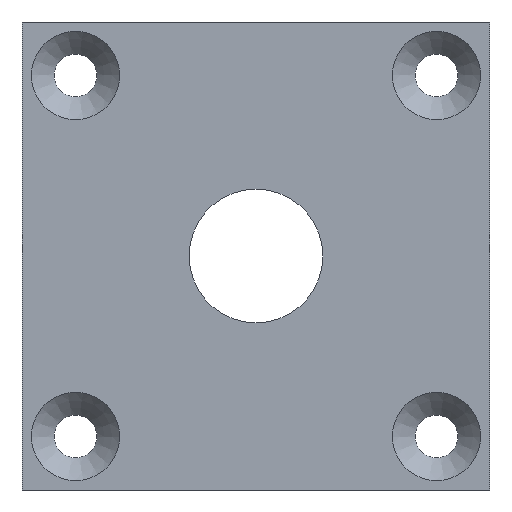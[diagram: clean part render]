
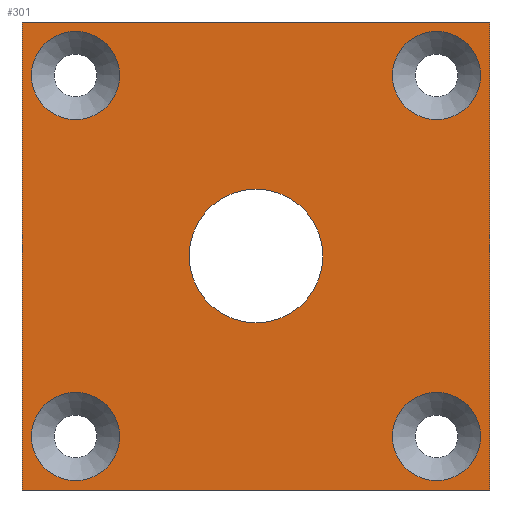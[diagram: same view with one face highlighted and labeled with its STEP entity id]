
A CAD part, front view. The second image highlights one B-rep face of the part: STEP entity #301.
In plain terms, the highlighted planar face has unit normal (0, -1, 0).
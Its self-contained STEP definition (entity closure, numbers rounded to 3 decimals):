
#31=FACE_BOUND('',#91,.T.);
#32=FACE_BOUND('',#92,.T.);
#33=FACE_BOUND('',#93,.T.);
#34=FACE_BOUND('',#94,.T.);
#35=FACE_BOUND('',#95,.T.);
#42=CIRCLE('',#329,5.);
#45=CIRCLE('',#336,3.3);
#47=CIRCLE('',#340,3.3);
#49=CIRCLE('',#344,3.3);
#51=CIRCLE('',#348,3.3);
#67=FACE_OUTER_BOUND('',#90,.T.);
#90=EDGE_LOOP('',(#266,#267,#268,#269));
#91=EDGE_LOOP('',(#270));
#92=EDGE_LOOP('',(#271));
#93=EDGE_LOOP('',(#272));
#94=EDGE_LOOP('',(#273));
#95=EDGE_LOOP('',(#274));
#102=LINE('',#464,#124);
#105=LINE('',#469,#127);
#107=LINE('',#473,#129);
#108=LINE('',#475,#130);
#124=VECTOR('',#371,1000.);
#127=VECTOR('',#376,1000.);
#129=VECTOR('',#380,1000.);
#130=VECTOR('',#383,1000.);
#150=VERTEX_POINT('',#461);
#151=VERTEX_POINT('',#463);
#152=VERTEX_POINT('',#467);
#153=VERTEX_POINT('',#471);
#155=VERTEX_POINT('',#479);
#158=VERTEX_POINT('',#492);
#160=VERTEX_POINT('',#500);
#162=VERTEX_POINT('',#508);
#164=VERTEX_POINT('',#516);
#175=EDGE_CURVE('',#151,#150,#102,.T.);
#178=EDGE_CURVE('',#150,#152,#105,.T.);
#180=EDGE_CURVE('',#152,#153,#107,.T.);
#181=EDGE_CURVE('',#153,#151,#108,.T.);
#184=EDGE_CURVE('',#155,#155,#42,.T.);
#190=EDGE_CURVE('',#158,#158,#45,.T.);
#194=EDGE_CURVE('',#160,#160,#47,.T.);
#198=EDGE_CURVE('',#162,#162,#49,.T.);
#201=EDGE_CURVE('',#164,#164,#51,.T.);
#266=ORIENTED_EDGE('',*,*,#175,.T.);
#267=ORIENTED_EDGE('',*,*,#178,.T.);
#268=ORIENTED_EDGE('',*,*,#180,.T.);
#269=ORIENTED_EDGE('',*,*,#181,.T.);
#270=ORIENTED_EDGE('',*,*,#201,.F.);
#271=ORIENTED_EDGE('',*,*,#194,.F.);
#272=ORIENTED_EDGE('',*,*,#184,.T.);
#273=ORIENTED_EDGE('',*,*,#190,.F.);
#274=ORIENTED_EDGE('',*,*,#198,.F.);
#285=PLANE('',#347);
#301=ADVANCED_FACE('',(#67,#31,#32,#33,#34,#35),#285,.T.);
#329=AXIS2_PLACEMENT_3D('',#481,#389,#390);
#336=AXIS2_PLACEMENT_3D('',#494,#406,#407);
#340=AXIS2_PLACEMENT_3D('',#502,#416,#417);
#344=AXIS2_PLACEMENT_3D('',#510,#426,#427);
#347=AXIS2_PLACEMENT_3D('',#515,#433,#434);
#348=AXIS2_PLACEMENT_3D('',#517,#435,#436);
#371=DIRECTION('',(1.,0.,0.));
#376=DIRECTION('',(0.,0.,1.));
#380=DIRECTION('',(-1.,0.,0.));
#383=DIRECTION('',(0.,0.,-1.));
#389=DIRECTION('center_axis',(0.,1.,0.));
#390=DIRECTION('ref_axis',(1.,0.,0.));
#406=DIRECTION('center_axis',(0.,-1.,0.));
#407=DIRECTION('ref_axis',(1.,0.,0.));
#416=DIRECTION('center_axis',(0.,-1.,0.));
#417=DIRECTION('ref_axis',(1.,0.,0.));
#426=DIRECTION('center_axis',(0.,-1.,0.));
#427=DIRECTION('ref_axis',(1.,0.,0.));
#433=DIRECTION('center_axis',(0.,-1.,0.));
#434=DIRECTION('ref_axis',(1.,0.,0.));
#435=DIRECTION('center_axis',(0.,-1.,0.));
#436=DIRECTION('ref_axis',(1.,0.,0.));
#461=CARTESIAN_POINT('',(430.,-78.988,0.));
#463=CARTESIAN_POINT('',(395.,-78.988,0.));
#464=CARTESIAN_POINT('',(430.,-78.988,0.));
#467=CARTESIAN_POINT('',(430.,-78.988,35.));
#469=CARTESIAN_POINT('',(430.,-78.988,35.));
#471=CARTESIAN_POINT('',(395.,-78.988,35.));
#473=CARTESIAN_POINT('',(395.,-78.988,35.));
#475=CARTESIAN_POINT('',(395.,-78.988,0.));
#479=CARTESIAN_POINT('',(407.5,-78.988,17.5));
#481=CARTESIAN_POINT('Origin',(412.5,-78.988,17.5));
#492=CARTESIAN_POINT('',(422.7,-78.988,4.));
#494=CARTESIAN_POINT('Origin',(426.,-78.988,4.));
#500=CARTESIAN_POINT('',(395.7,-78.988,4.));
#502=CARTESIAN_POINT('Origin',(399.,-78.988,4.));
#508=CARTESIAN_POINT('',(395.7,-78.988,31.));
#510=CARTESIAN_POINT('Origin',(399.,-78.988,31.));
#515=CARTESIAN_POINT('Origin',(412.5,-78.988,17.5));
#516=CARTESIAN_POINT('',(422.7,-78.988,31.));
#517=CARTESIAN_POINT('Origin',(426.,-78.988,31.));
